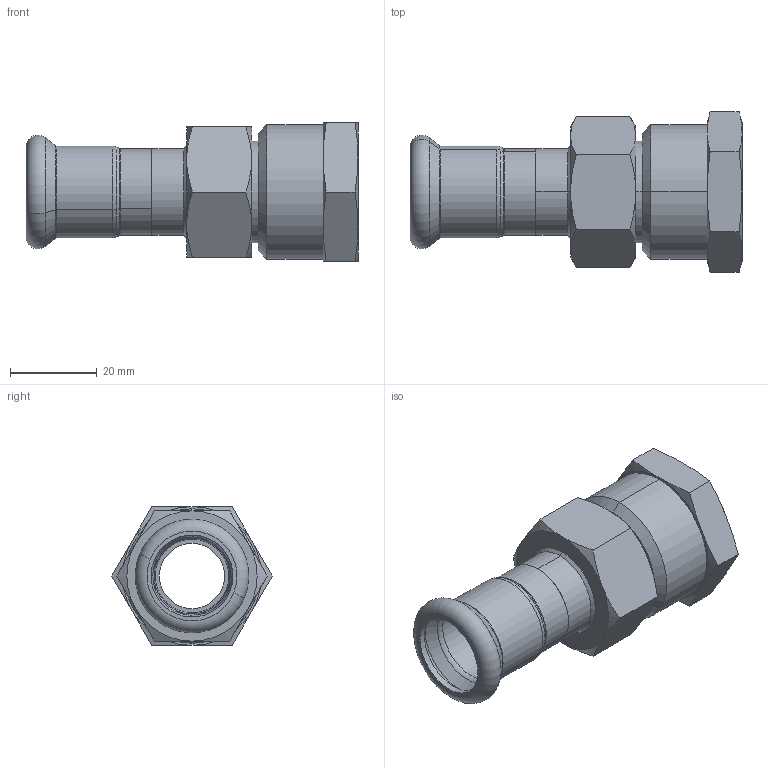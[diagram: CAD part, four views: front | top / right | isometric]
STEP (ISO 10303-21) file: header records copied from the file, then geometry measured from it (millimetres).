
FILE_DESCRIPTION (( 'STEP AP203' ), '1' );
FILE_NAME ('GDA5454.STEP', '2019-01-17T07:57:45', ( '' ), ( '' ), 'SwSTEP 2.0', 'SolidWorks 2015', '' );
FILE_SCHEMA (( 'CONFIG_CONTROL_DESIGN' ));
Length unit declared in the file: millimetre
Products named in the file (6): T-ｉ-01-18; ?; ZL-Ⅰ-01×?; 18｡ﾁ?; 囀俋佪蛌遙諉芛0.75-0.75; GDA5454
Assembly tree (5 placements, depth 2):
  GDA5454
    ?
    18｡ﾁ?
    T-ｉ-01-18
    ZL-Ⅰ-01×?
    囀俋佪蛌遙諉芛0.75-0.75
Bounding box: 76.5 x 36.95 x 32 mm (x, y, z)
Volume: 21936.3 mm3; surface area: 16750.4 mm2
Topology: 5 solids, 5 shells, 129 faces, 266 edges, 154 vertices
Faces by surface type: cone 48, cylinder 36, plane 29, torus 16
Entity records: 4214 total; most frequent: CARTESIAN_POINT 829, DIRECTION 638, ORIENTED_EDGE 532, AXIS2_PLACEMENT_3D 283, EDGE_CURVE 266, VERTEX_POINT 154, CIRCLE 146, EDGE_LOOP 146
